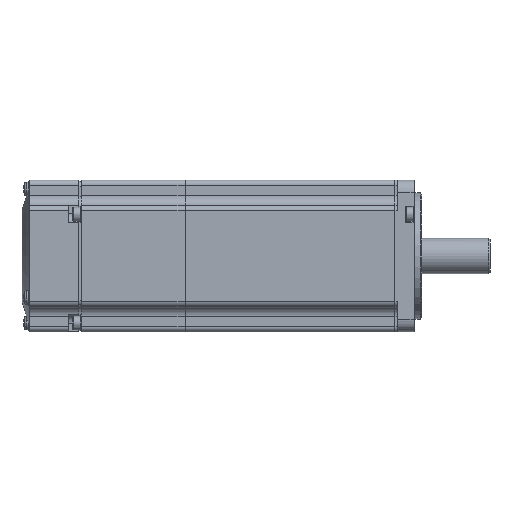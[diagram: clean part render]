
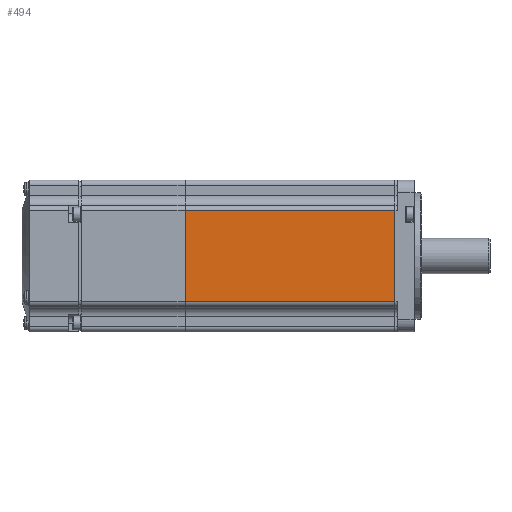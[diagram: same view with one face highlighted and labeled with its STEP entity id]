
A CAD part, front view. The second image highlights one B-rep face of the part: STEP entity #494.
In plain terms, the highlighted planar face has unit normal (0, -1, 0).
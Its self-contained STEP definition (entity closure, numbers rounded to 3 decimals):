
#494 = ADVANCED_FACE( '', ( #1529 ), #1530, .F. );
#1529 = FACE_OUTER_BOUND( '', #3568, .T. );
#1530 = PLANE( '', #3569 );
#3568 = EDGE_LOOP( '', ( #6342, #6343, #6344, #6345 ) );
#3569 = AXIS2_PLACEMENT_3D( '', #6346, #6347, #6348 );
#6342 = ORIENTED_EDGE( '', *, *, #12790, .F. );
#6343 = ORIENTED_EDGE( '', *, *, #12900, .T. );
#6344 = ORIENTED_EDGE( '', *, *, #12782, .T. );
#6345 = ORIENTED_EDGE( '', *, *, #12901, .F. );
#6346 = CARTESIAN_POINT( '', ( 6.5, -30., 25. ) );
#6347 = DIRECTION( '', ( 0., 1., 0. ) );
#6348 = DIRECTION( '', ( 0., 0., 1. ) );
#12782 = EDGE_CURVE( '', #15128, #15130, #15132, .T. );
#12790 = EDGE_CURVE( '', #15143, #15146, #15147, .T. );
#12900 = EDGE_CURVE( '', #15143, #15128, #15327, .T. );
#12901 = EDGE_CURVE( '', #15146, #15130, #15328, .T. );
#15128 = VERTEX_POINT( '', #18966 );
#15130 = VERTEX_POINT( '', #18968 );
#15132 = LINE( '', #18970, #18971 );
#15143 = VERTEX_POINT( '', #18987 );
#15146 = VERTEX_POINT( '', #18990 );
#15147 = LINE( '', #18991, #18992 );
#15327 = LINE( '', #19247, #19248 );
#15328 = LINE( '', #19249, #19250 );
#18966 = CARTESIAN_POINT( '', ( -83.95, -30., -18. ) );
#18968 = CARTESIAN_POINT( '', ( -1.25, -30., -18. ) );
#18970 = CARTESIAN_POINT( '', ( -145.52, -30., -18. ) );
#18971 = VECTOR( '', #24216, 1000. );
#18987 = CARTESIAN_POINT( '', ( -83.95, -30., 18. ) );
#18990 = CARTESIAN_POINT( '', ( -1.25, -30., 18. ) );
#18991 = CARTESIAN_POINT( '', ( -145.52, -30., 18. ) );
#18992 = VECTOR( '', #24228, 1000. );
#19247 = CARTESIAN_POINT( '', ( -83.95, -30., 25. ) );
#19248 = VECTOR( '', #24406, 1000. );
#19249 = CARTESIAN_POINT( '', ( -1.25, -30., 25. ) );
#19250 = VECTOR( '', #24407, 1000. );
#24216 = DIRECTION( '', ( 1., 0., 0. ) );
#24228 = DIRECTION( '', ( 1., 0., 0. ) );
#24406 = DIRECTION( '', ( 0., 0., -1. ) );
#24407 = DIRECTION( '', ( 0., 0., -1. ) );
